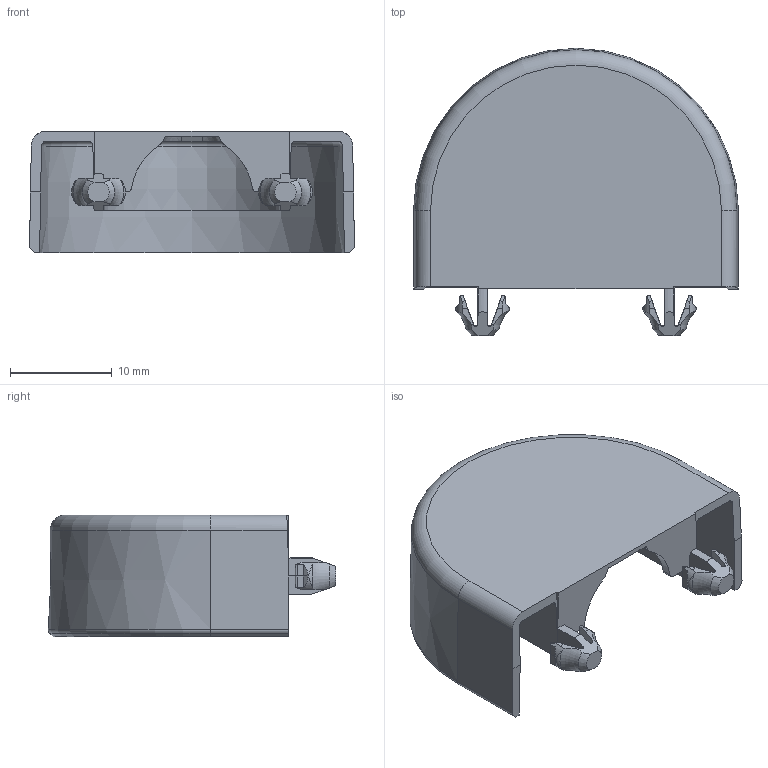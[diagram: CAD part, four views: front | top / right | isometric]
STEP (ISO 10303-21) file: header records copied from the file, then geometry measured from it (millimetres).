
FILE_DESCRIPTION((''),'2;1');
FILE_NAME('LLE20_ENDCAP_PINIT-864','2022-10-28T08:03:37',('Bernhard.Fink'),(''),'CREO PARAMETRIC BY PTC INC, 2021184','CREO PARAMETRIC BY PTC INC, 2021184','');
FILE_SCHEMA(('CONFIG_CONTROL_DESIGN'));
Length unit declared in the file: millimetre
Products named in the file (1): LLE20_ENDCAP_PINIT-864
Bounding box: 31.98 x 28.29 x 12 mm (x, y, z)
Volume: 1693.1 mm3; surface area: 3538.9 mm2
Topology: 1 solids, 1 shells, 163 faces, 437 edges, 276 vertices
Faces by surface type: plane 83, cylinder 36, cone 29, torus 13, bspline 2
Entity records: 5397 total; most frequent: CARTESIAN_POINT 1492, ORIENTED_EDGE 874, DIRECTION 707, EDGE_CURVE 437, VERTEX_POINT 276, VECTOR 249, LINE 249, AXIS2_PLACEMENT_3D 229
